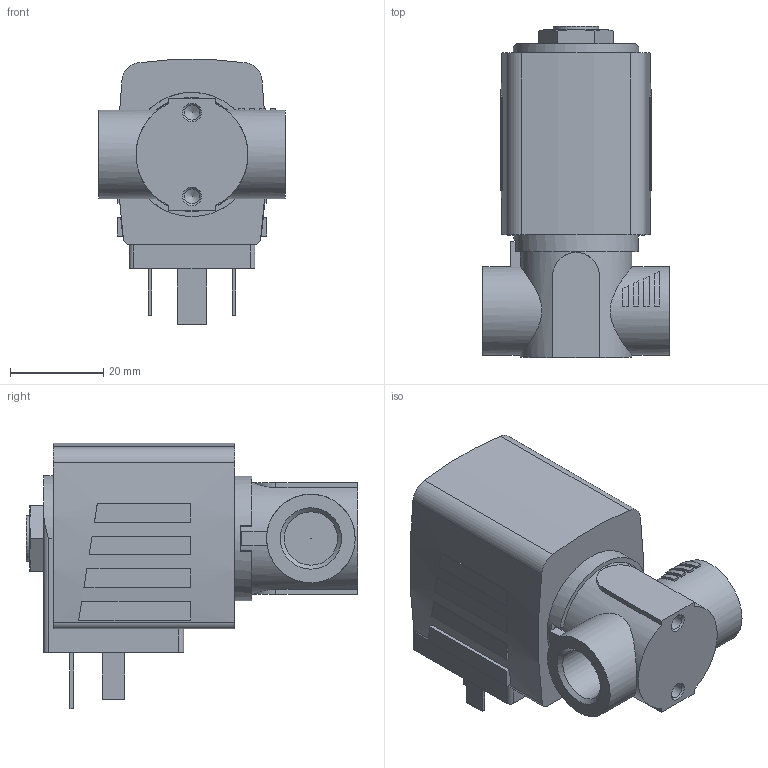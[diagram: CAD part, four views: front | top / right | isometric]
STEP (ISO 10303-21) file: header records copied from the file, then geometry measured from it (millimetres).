
FILE_DESCRIPTION(/* description */ ('STEP AP214'),/* implementation_level */ '2;1');
FILE_NAME(/* name */ '6240-204664-2_2-way_solenoid_valve__pilot-controlled',/* time_stamp */ '2024-05-07T17:48:52+02:00',/* author */ ('License CC BY-ND 4.0'),/* organization */ ('CADENAS'),/* preprocessor_version */ 'ST-DEVELOPER v19.3',/* originating_system */ 'PARTsolutions',/* authorisation */ ' ');
FILE_SCHEMA (('AUTOMOTIVE_DESIGN {1 0 10303 214 3 1 1}'));
Length unit declared in the file: millimetre
Products named in the file (3): 6240-204664-2/2-way solenoid valve, pilot-controlled; 6240-Gehaeuse-2/2-Wege-Magnetventil, vorgesteuert StandardG1/46MS; AC10ex-5NA38-Plan-Coil
Assembly tree (2 placements, depth 2):
  6240-204664-2/2-way solenoid valve, pilot-controlled
    6240-Gehaeuse-2/2-Wege-Magnetventil, vorgesteuert StandardG1/46MS
    AC10ex-5NA38-Plan-Coil
Bounding box: 40 x 71 x 56.91 mm (x, y, z)
Volume: 69139.1 mm3; surface area: 15030.6 mm2
Topology: 2 solids, 2 shells, 154 faces, 369 edges, 242 vertices
Faces by surface type: plane 109, cylinder 32, cone 13
Full cylindrical faces by diameter (mm): 0.2 x1, 2.013 x1, 3.242 x2, 9.74 x1, 11.445 x2, 19 x2, 24 x1, 24.5 x1, 26.65 x1
Entity records: 5512 total; most frequent: CARTESIAN_POINT 849, DIRECTION 737, ORIENTED_EDGE 682, EDGE_CURVE 341, AXIS2_PLACEMENT_3D 261, VERTEX_POINT 235, LINE 215, VECTOR 215
